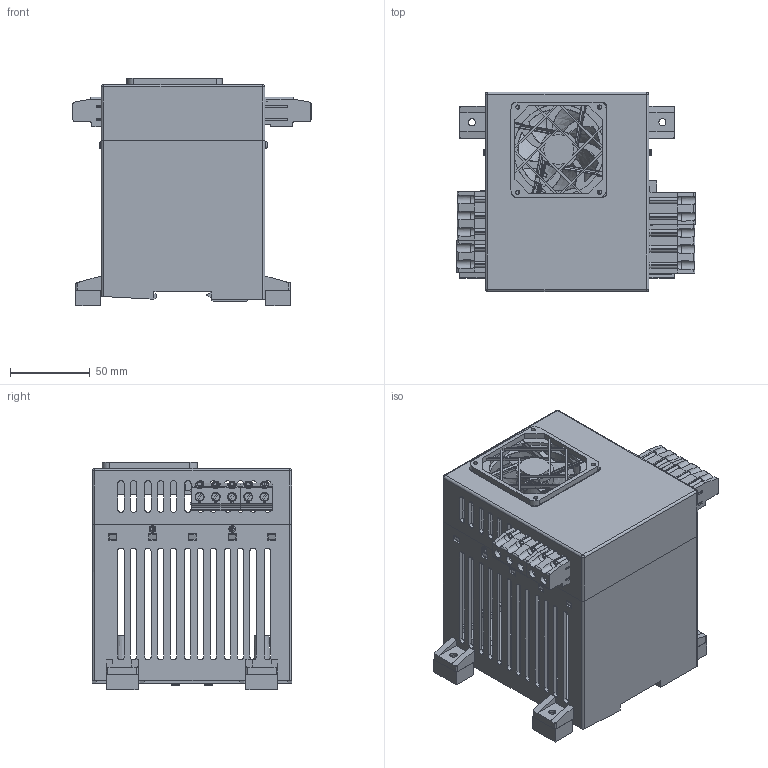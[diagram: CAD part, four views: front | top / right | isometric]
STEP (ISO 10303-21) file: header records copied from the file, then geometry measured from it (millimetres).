
FILE_DESCRIPTION(/* description */ ('SolidDesigner STEP Export'),/* implementation_level */ '2;1');
FILE_NAME(/* name */ 'MPA3D_.step',/* time_stamp */ '2025-06-11T16:38:21+02:00',/* author */ (''),/* organization */ (''),/* preprocessor_version */ 'ST-DEVELOPER v20.1',/* originating_system */ 'Autodesk Translation Framework v14.10.0.0',/* authorisation */ '');
FILE_SCHEMA (('AUTOMOTIVE_DESIGN { 1 0 10303 214 3 1 1 }'));
Products named in the file (15): CM175_LG_H35_BO_DB_GH_KPL; AL125 v5; CM125-LG_H_35_BO_DB_GH_BK; CM125-LG_H_35; CM125-LG_H..._BO_DB_GH_BK; CM_GDH.2; schraub_blech_b2.2x9.5.1; 1773976 v2; 1774137 v1; 1773976 v2_1; 1773976; 1774137 v1_1; 1774137; 10316900; CUI_DEVICES_CFM-9225V-227-320
Assembly tree (22 placements, depth 4):
  CM175_LG_H35_BO_DB_GH_KPL
    AL125 v5
      CM125-LG_H_35_BO_DB_GH_BK
        CM125-LG_H_35
        CM_GDH.2  x4
        schraub_blech_b2.2x9.5.1  x4
        CM125-LG_H..._BO_DB_GH_BK
    1773976 v2
      1773976
    1774137 v1
      1774137
    1773976 v2_1
      1773976
    1774137 v1_1
      1774137
    10316900
    CUI_DEVICES_CFM-9225V-227-320
Bounding box: 149.3 x 125 x 142.59 mm (x, y, z)
Volume: 268710.1 mm3; surface area: 225995.6 mm2
Topology: 16 solids, 16 shells, 2905 faces, 8061 edges, 5292 vertices
Faces by surface type: plane 1880, cylinder 740, bspline 124, torus 79, cone 76, sphere 6
Full cylindrical faces by diameter (mm): 0.457 x4, 0.648 x2, 1.5 x24, 1.6 x32, 2.2 x32, 2.4 x4, 2.656 x4, 2.786 x8, 3.175 x4, 4 x4, 4.5 x8, 5 x10, 5.6 x10, 6.479 x1, 23.324 x1, 57.015 x2
Entity records: 88012 total; most frequent: CARTESIAN_POINT 28982, ORIENTED_EDGE 12486, DIRECTION 11619, EDGE_CURVE 6243, LINE 4369, VECTOR 4369, VERTEX_POINT 4105, AXIS2_PLACEMENT_3D 3625
